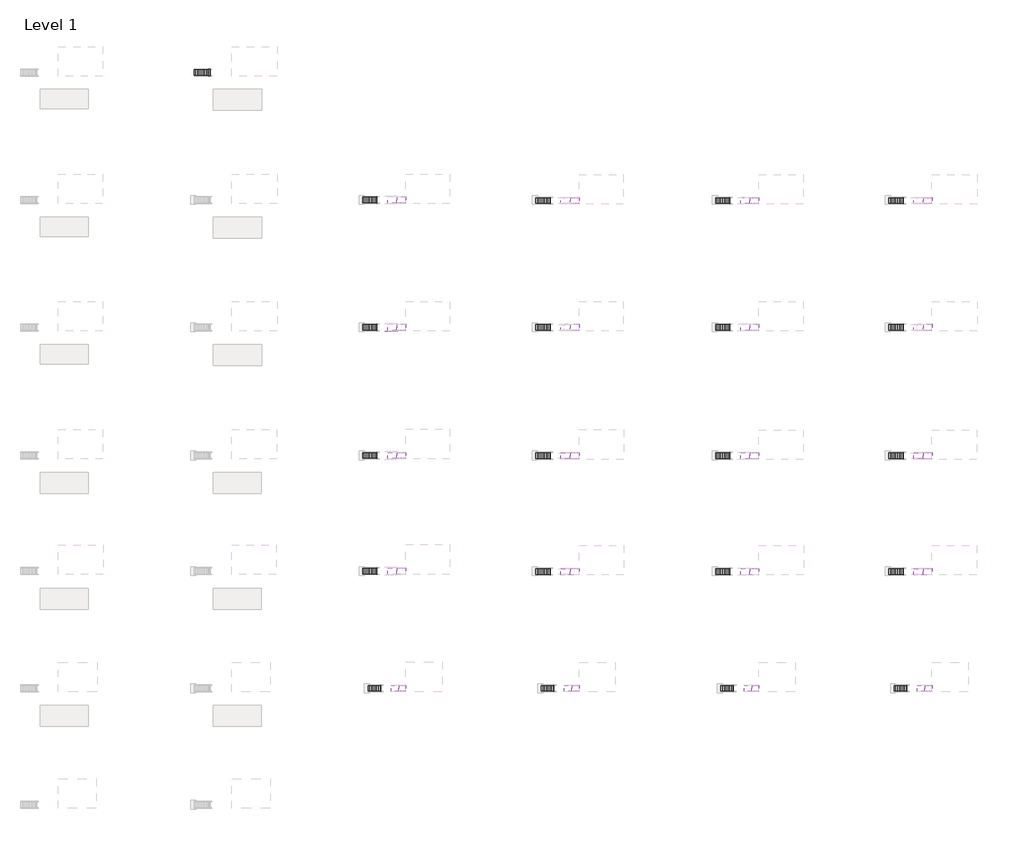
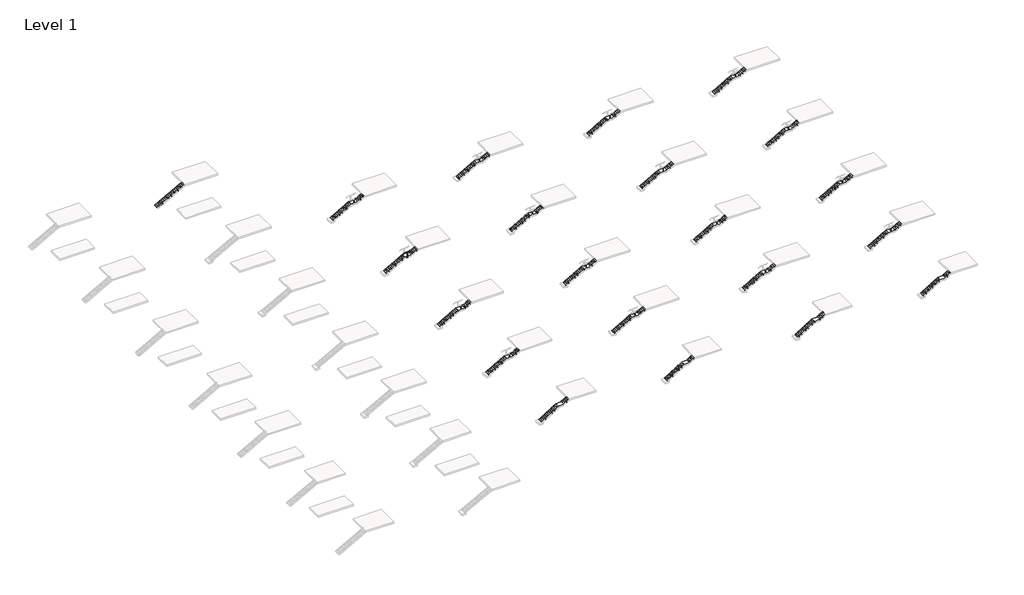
# One storey, part 20 of 26: 41 stair flights, 20 slabs, 1 railing.
"""IFC4 building model written with IfcOpenShell, lengths in millimetres."""

from ifc_helpers import new_model, si_unit, point, frame, frame_2d, origin, place, context, project, spatial, polyline, circle_curve, ellipse_curve, trimmed, segment, composite_curve, outline, extrude, faceted_brep, transform, mapped, element, save
from ifc_brep_helpers import plane_surface, cylinder_surface, advanced_brep
from components import non_monolithic_landing_ba18e954, non_monolithic_landing_6adbc8e0, non_monolithic_landing_85741d80, non_monolithic_landing_9c3b6c2f, non_monolithic_landing_3735fff0, non_monolithic_landing_7542c6ef, non_monolithic_landing_2175300e, non_monolithic_landing_fe87bfb6, non_monolithic_landing_61dc7ece, non_monolithic_landing_2ec73fd3, non_monolithic_landing_1fe08bb0, non_monolithic_landing_55aafcfe, non_monolithic_landing_4edcb1f4, non_monolithic_landing_a06a94af, non_monolithic_landing_d1df9633, non_monolithic_landing_807e3ce3, non_monolithic_landing_8dc55f4e, non_monolithic_landing_04b1c395, non_monolithic_landing_970f0ffe, non_monolithic_landing_216da468, stair_flight_2194d3fa, stair_flight_f2962e83, stair_flight_2e129cbe, stair_flight_daf749ab, stair_flight_31af6763, stair_flight_0488f1b2, stair_flight_74420b91, stair_flight_86070106, stair_flight_121c85e8, stair_flight_4cc94064, stair_flight_ee530d9f, stair_flight_0a09475e, stair_flight_679cbe74, stair_flight_40b9fe5e, stair_flight_dd7b6ecc, stair_flight_db9d9bea, stair_flight_47092819, stair_flight_35d62cd0, stair_flight_6df517c7, stair_flight_b267efb0, stair_flight_7796f7ba, stair_flight_b1352991, stair_flight_6c6cad8c, stair_flight_93157d2e, stair_flight_fbbe2258, stair_flight_fc5f5a85, stair_flight_019ce01d, stair_flight_322c6501, stair_flight_2bd32467, stair_flight_4906deab, stair_flight_edcfc60d, stair_flight_f7af0ae6, stair_flight_d7916bae, stair_flight_35e525fe, stair_flight_9e2481da, stair_flight_60fe939c, stair_flight_b48d4b94, stair_flight_1aeb8a89, stair_flight_938dff1c, stair_flight_72f888fa, stair_flight_1632b0e1

model = new_model("IFC4")

# Units and contexts
model_context = context("Model", 3, world=origin())
ifc_project = project(units=[si_unit("LENGTHUNIT", "METRE", prefix="MILLI")], contexts=[model_context])

# Site, building, storey
site = spatial("IfcSite", under=ifc_project)
building = spatial("IfcBuilding", under=site)
storey = spatial("IfcBuildingStorey", under=building, Name="Level 1", Elevation=0.0)

# Railing
placement = place(None, origin())
element("IfcRailing", 1, ObjectType="VIVA-CUBE-Glass-Fascia Mount-Stair-Landing", at=placement, inside=storey, context=model_context, shape_type="SolidModel", body=[
    advanced_brep(
    [(87644.1145262, 15715.3311941, 3009.6740933), (87644.1145262, 15766.1311941, 3009.6740933), (88031.8598629, 15715.3311941, 3231.2428571), (88031.8598629, 15766.1311941, 3231.2428571), (89098.6598629, 15715.3311941, 3231.2428571), (89098.6598629, 15766.1311941, 3231.2428571), (89368.1395262, 15715.3311941, 3385.2312362), (89368.1395262, 15766.1311941, 3385.2312362)],
    [
        (0, 1, ellipse_curve(frame((87644.1145262, 15740.7311941, 3009.6740933), z_axis=(-1.0, 0.0, 0.0), x_axis=(0.0, 0.0, -0.9999999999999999)), 29.2544781, 25.4)),
        (1, 0, ellipse_curve(frame((87644.1145262, 15740.7311941, 3009.6740933), z_axis=(-1.0, 0.0, 0.0), x_axis=(0.0, 0.0, -0.9999999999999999)), 29.2544781, 25.4)),
        (0, 2),
        (2, 3, ellipse_curve(frame((88031.8598629, 15740.7311941, 3231.2428571), z_axis=(-0.966499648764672, 0.0, -0.25666793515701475), x_axis=(0.25666793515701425, 0.0, -0.9664996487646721)), 26.2804027, 25.4)),
        (3, 1),
        (3, 2, ellipse_curve(frame((88031.8598629, 15740.7311941, 3231.2428571), z_axis=(-0.966499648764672, 0.0, -0.25666793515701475), x_axis=(0.25666793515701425, 0.0, -0.9664996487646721)), 26.2804027, 25.4)),
        (2, 4),
        (4, 5, ellipse_curve(frame((89098.6598629, 15740.7311941, 3231.2428571), z_axis=(-0.9664996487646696, 0.0, -0.2566679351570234), x_axis=(-0.2566679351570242, 0.0, 0.9664996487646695)), 26.2804027, 25.4)),
        (5, 3),
        (5, 4, ellipse_curve(frame((89098.6598629, 15740.7311941, 3231.2428571), z_axis=(-0.9664996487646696, 0.0, -0.2566679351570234), x_axis=(-0.2566679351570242, 0.0, 0.9664996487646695)), 26.2804027, 25.4)),
        (6, 7, ellipse_curve(frame((89368.1395262, 15740.7311941, 3385.2312362), z_axis=(1.0, 0.0, 0.0), x_axis=(0.0, 0.0, -1.0)), 29.2544781, 25.4)),
        (7, 6, ellipse_curve(frame((89368.1395262, 15740.7311941, 3385.2312362), z_axis=(1.0, 0.0, 0.0), x_axis=(0.0, 0.0, -1.0)), 29.2544781, 25.4)),
        (4, 6),
        (7, 5),
    ],
    [
        plane_surface(frame((87644.1145262, 15740.7311941, 3038.9285714), z_axis=(-1.0, 0.0, 0.0), x_axis=(0.0, 1.0, 0.0))),
        cylinder_surface(frame((87656.7164552, 15740.7311941, 3016.8751956), z_axis=(-0.868243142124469, 0.0, -0.49613893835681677), x_axis=(0.0, 1.0, 0.0)), 25.4),
        cylinder_surface(frame((88025.1145262, 15740.7311941, 3231.2428571), z_axis=(-1.0, 0.0, 0.0), x_axis=(0.0, 1.0, 0.0)), 25.4),
        plane_surface(frame((89368.1395262, 15740.7311941, 3414.4857143), z_axis=(1.0, 0.0, 0.0), x_axis=(0.0, 1.0, 0.0))),
        cylinder_surface(frame((89104.5164552, 15740.7311941, 3234.5894813), z_axis=(-0.8682431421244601, 0.0, -0.4961389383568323), x_axis=(0.0, 1.0, 0.0)), 25.4),
    ],
    [
        (0, [[1, 2]]),
        (1, [[-1, 3, 4, 5]]),
        (1, [[-2, -5, 6, -3]]),
        (2, [[-4, 7, 8, 9]]),
        (2, [[-6, -9, 10, -7]]),
        (3, [[11, 12]]),
        (4, [[-8, 13, -12, 14]]),
        (4, [[-10, -14, -11, -13]]),
    ],
),
    extrude(outline(composite_curve([segment(trimmed(circle_curve(frame_2d((0.0, -7.0)), 7.0), [point((0.0, -14.0))], [point((0.0, 0.0))], False, "CARTESIAN"), True, "CONTINUOUS"), segment(trimmed(circle_curve(frame_2d((0.0, -7.0)), 7.0), [point((0.0, 0.0))], [point((0.0, -14.0))], False, "CARTESIAN"), True, "CONTINUOUS")], self_intersect=False)), frame((88506.6192867, 15826.4150199, 2972.3156836), z_axis=(-0.0012555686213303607, 0.0, 0.999999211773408), x_axis=(-0.999999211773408, 0.0, -0.0012555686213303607)), (0.0, 0.0, 1.0), 75.97),
    extrude(outline(composite_curve([segment(trimmed(circle_curve(frame_2d((15834.6629519, 3070.2618193)), 19.05), [point((15821.1333637, 3056.8509005))], [point((15848.1925401, 3056.8509005))], True, "CARTESIAN"), True, "CONTINUOUS"), segment(polyline([(15848.1925401, 3056.8509005), (15849.2189298, 3055.8335135)]), True, "CONTINUOUS"), segment(trimmed(circle_curve(frame_2d((15848.1629519, 3054.7681916)), 1.5), [point((15849.2189298, 3055.8335135))], [point((15849.1483534, 3053.6372698))], False, "CARTESIAN"), True, "CONTINUOUS"), segment(trimmed(circle_curve(frame_2d((15834.6629519, 3070.2618193)), 22.05), [point((15849.1483534, 3053.6372698))], [point((15820.1775504, 3053.6372698))], False, "CARTESIAN"), True, "CONTINUOUS"), segment(trimmed(circle_curve(frame_2d((15821.1629519, 3054.7681916)), 1.5), [point((15820.1775504, 3053.6372698))], [point((15820.106974, 3055.8335135))], False, "CARTESIAN"), True, "CONTINUOUS"), segment(polyline([(15820.106974, 3055.8335135), (15821.1333637, 3056.8509005)]), True, "CONTINUOUS")], self_intersect=False)), frame((88468.4477528, 0.0, 0.0), z_axis=(1.0, 0.0, 0.0), x_axis=(0.0, 1.0, 0.0)), (0.0, 0.0, 1.0), 74.5229187),
    extrude(outline(composite_curve([segment(trimmed(circle_curve(frame_2d((2999.1922796, 88506.5593832)), 12.5), [point((2999.1922796, 88519.0593832))], [point((2999.1922796, 88494.0593832))], False, "CARTESIAN"), True, "CONTINUOUS"), segment(trimmed(circle_curve(frame_2d((2999.1922796, 88506.5593832)), 12.5), [point((2999.1922796, 88494.0593832))], [point((2999.1922796, 88519.0593832))], False, "CARTESIAN"), True, "CONTINUOUS")], self_intersect=False)), frame((0.0, 15766.1311941, 0.0), z_axis=(0.0, 1.0, 0.0), x_axis=(0.0, 0.0, 1.0)), (0.0, 0.0, 1.0), 82.061346),
    extrude(outline(polyline([(88570.0239012, 15795.2442297), (88570.0239012, 15785.2620297), (88443.0239012, 15785.2620297), (88443.0239012, 15795.2442297), (88570.0239012, 15795.2442297)])), frame((0.0, 0.0, 1999.3428571), z_axis=(0.0, 0.0, 1.0), x_axis=(1.0, 0.0, 0.0)), (0.0, 0.0, 1.0), 152.4),
    extrude(outline(composite_curve([segment(polyline([(2151.7428571, 88567.4839012), (2151.7428571, 88445.5639012)]), True, "CONTINUOUS"), segment(trimmed(circle_curve(frame_2d((2149.2028571, 88445.5639012)), 2.54), [point((2151.7428571, 88445.5639012))], [point((2149.2028571, 88443.0239012))], False, "CARTESIAN"), True, "CONTINUOUS"), segment(polyline([(2149.2028571, 88443.0239012), (2001.8828571, 88443.0239012)]), True, "CONTINUOUS"), segment(trimmed(circle_curve(frame_2d((2001.8828571, 88445.5639012)), 2.54), [point((2001.8828571, 88443.0239012))], [point((1999.3428571, 88445.5639012))], False, "CARTESIAN"), True, "CONTINUOUS"), segment(polyline([(1999.3428571, 88445.5639012), (1999.3428571, 88567.4839012)]), True, "CONTINUOUS"), segment(trimmed(circle_curve(frame_2d((2001.8828571, 88567.4839012)), 2.54), [point((1999.3428571, 88567.4839012))], [point((2001.8828571, 88570.0239012))], False, "CARTESIAN"), True, "CONTINUOUS"), segment(polyline([(2001.8828571, 88570.0239012), (2149.2028571, 88570.0239012)]), True, "CONTINUOUS"), segment(trimmed(circle_curve(frame_2d((2149.2028571, 88567.4839012)), 2.54), [point((2149.2028571, 88570.0239012))], [point((2151.7428571, 88567.4839012))], False, "CARTESIAN"), True, "CONTINUOUS")], self_intersect=False), holes=[composite_curve([segment(trimmed(circle_curve(frame_2d((2132.6928571, 88462.0739012)), 5.55625), [point((2132.6928571, 88467.6301512))], [point((2132.6928571, 88456.5176512))], True, "CARTESIAN"), True, "CONTINUOUS"), segment(trimmed(circle_curve(frame_2d((2132.6928571, 88462.0739012)), 5.55625), [point((2132.6928571, 88456.5176512))], [point((2132.6928571, 88467.6301512))], True, "CARTESIAN"), True, "CONTINUOUS")], self_intersect=False), composite_curve([segment(trimmed(circle_curve(frame_2d((2132.6928571, 88550.9739012)), 5.55625), [point((2132.6928571, 88556.5301512))], [point((2132.6928571, 88545.4176512))], True, "CARTESIAN"), True, "CONTINUOUS"), segment(trimmed(circle_curve(frame_2d((2132.6928571, 88550.9739012)), 5.55625), [point((2132.6928571, 88545.4176512))], [point((2132.6928571, 88556.5301512))], True, "CARTESIAN"), True, "CONTINUOUS")], self_intersect=False), composite_curve([segment(trimmed(circle_curve(frame_2d((2018.3928571, 88550.9739012)), 5.55625), [point((2018.3928571, 88556.5301512))], [point((2018.3928571, 88545.4176512))], True, "CARTESIAN"), True, "CONTINUOUS"), segment(trimmed(circle_curve(frame_2d((2018.3928571, 88550.9739012)), 5.55625), [point((2018.3928571, 88545.4176512))], [point((2018.3928571, 88556.5301512))], True, "CARTESIAN"), True, "CONTINUOUS")], self_intersect=False), composite_curve([segment(trimmed(circle_curve(frame_2d((2018.3928571, 88462.0739012)), 5.55625), [point((2018.3928571, 88467.6301512))], [point((2018.3928571, 88456.5176512))], True, "CARTESIAN"), True, "CONTINUOUS"), segment(trimmed(circle_curve(frame_2d((2018.3928571, 88462.0739012)), 5.55625), [point((2018.3928571, 88456.5176512))], [point((2018.3928571, 88467.6301512))], True, "CARTESIAN"), True, "CONTINUOUS")], self_intersect=False)]), frame((0.0, 15775.2798297, 0.0), z_axis=(0.0, 1.0, 0.0), x_axis=(0.0, 0.0, 1.0)), (0.0, 0.0, 1.0), 9.9822),
    extrude(outline(polyline([(88474.7739012, 15785.2620297), (88538.2739012, 15785.2620297), (88538.2739012, 15708.9811941), (88474.7739012, 15708.9811941), (88474.7739012, 15785.2620297)])), frame((0.0, 0.0, 2026.3303571), z_axis=(0.0, 0.0, 1.0), x_axis=(1.0, 0.0, 0.0)), (0.0, 0.0, 1.0), 9.5123),
    extrude(outline(polyline([(88474.7739012, 15785.2620297), (88538.2739012, 15785.2620297), (88538.2739012, 15708.9811941), (88474.7739012, 15708.9811941), (88474.7739012, 15785.2620297)])), frame((0.0, 0.0, 2115.2303571), z_axis=(0.0, 0.0, 1.0), x_axis=(1.0, 0.0, 0.0)), (0.0, 0.0, 1.0), 9.525),
    extrude(outline(composite_curve([segment(trimmed(circle_curve(frame_2d((2999.1922796, 88506.5593832)), 12.5), [point((2999.1922796, 88494.0593832))], [point((2999.1922796, 88519.0593832))], False, "CARTESIAN"), True, "CONTINUOUS"), segment(trimmed(circle_curve(frame_2d((2999.1922796, 88506.5593832)), 12.5), [point((2999.1922796, 88519.0593832))], [point((2999.1922796, 88494.0593832))], False, "CARTESIAN"), True, "CONTINUOUS")], self_intersect=False)), frame((0.0, 15707.7111941, 0.0), z_axis=(0.0, 1.0, 0.0), x_axis=(0.0, 0.0, 1.0)), (0.0, 0.0, 1.0), 7.62),
    faceted_brep([(88519.2239012, 15753.4311941, 3174.433132), (88493.8239012, 15753.4311941, 3174.433132), (88493.8239012, 15744.6999441, 3174.433132), (88519.2239012, 15744.6999441, 3174.433132), (88493.8239012, 15728.0311941, 3174.433132), (88519.2239012, 15728.0311941, 3174.433132), (88519.2239012, 15736.7624441, 3174.433132), (88493.8239012, 15736.7624441, 3174.433132), (88531.9239012, 15766.1311941, 3118.2776425), (88531.9239012, 15715.3311941, 3118.2776425), (88481.1239012, 15766.1311941, 3118.2776425), (88481.1239012, 15715.3311941, 3118.2776425), (88531.9239012, 15766.1311941, 2035.8426571), (88531.9239012, 15715.3311941, 2035.8426571), (88481.1239012, 15715.3311941, 2035.8426571), (88481.1239012, 15766.1311941, 2035.8426571), (88493.8239012, 15736.7624441, 3186.4734584), (88519.2239012, 15736.7624441, 3186.4734584), (88519.2239012, 15744.6999441, 3186.4734584), (88493.8239012, 15744.6999441, 3186.4734584)], [[[0, 1, 2, 3]], [[4, 5, 6, 7]], [[8, 0, 3, 6, 5, 9]], [[1, 0, 8, 10]], [[1, 10, 11, 4, 7, 2]], [[5, 4, 11, 9]], [[12, 13, 14, 15]], [[12, 15, 10, 8]], [[15, 14, 11, 10]], [[14, 13, 9, 11]], [[13, 12, 8, 9]], [[16, 17, 18, 19]], [[17, 16, 7, 6]], [[18, 17, 6, 3]], [[19, 18, 3, 2]], [[16, 19, 2, 7]]]),
    extrude(outline(composite_curve([segment(trimmed(circle_curve(frame_2d((15740.8279225, 3231.2861755)), 25.4345159), [point((15728.2641196, 3209.1713512))], [point((15753.2231562, 3209.0764304))], True, "CARTESIAN"), True, "CONTINUOUS"), segment(trimmed(circle_curve(frame_2d((15754.4678094, 3206.5739456)), 2.7949225), [point((15753.2231562, 3209.0764304))], [point((15755.9451144, 3204.2013603))], False, "CARTESIAN"), True, "CONTINUOUS"), segment(trimmed(circle_curve(frame_2d((15740.6944594, 3232.0488022)), 31.75), [point((15755.9451144, 3204.2013603))], [point((15724.4282222, 3204.7821187))], False, "CARTESIAN"), True, "CONTINUOUS"), segment(trimmed(circle_curve(frame_2d((15726.7165619, 3206.6530378)), 2.9558141), [point((15724.4282222, 3204.7821187))], [point((15728.2641196, 3209.1713512))], False, "CARTESIAN"), True, "CONTINUOUS")], self_intersect=False)), frame((88461.2865012, 0.0, 0.0), z_axis=(1.0, 0.0, 0.0), x_axis=(0.0, 1.0, 0.0)), (0.0, 0.0, 1.0), 90.4748),
    extrude(outline(composite_curve([segment(polyline([(3200.5113742, 88533.5918161), (3200.5113742, 88479.4559863)]), True, "CONTINUOUS"), segment(trimmed(circle_curve(frame_2d((3186.1434593, 88479.4559863)), 14.3679149), [point((3200.5113742, 88479.4559863))], [point((3186.1434593, 88493.8239012))], True, "CARTESIAN"), True, "CONTINUOUS"), segment(trimmed(circle_curve(frame_2d((3186.1434593, 88506.5239012)), 12.7), [point((3186.1434593, 88493.8239012))], [point((3186.1434593, 88519.2239012))], False, "CARTESIAN"), True, "CONTINUOUS"), segment(trimmed(circle_curve(frame_2d((3186.1434593, 88533.5918161)), 14.3679149), [point((3186.1434593, 88519.2239012))], [point((3200.5113742, 88533.5918161))], True, "CARTESIAN"), True, "CONTINUOUS")], self_intersect=False)), frame((0.0, 15738.1911941, 0.0), z_axis=(0.0, 1.0, 0.0), x_axis=(0.0, 0.0, 1.0)), (0.0, 0.0, 1.0), 5.08),
])

# Slabs
non_monolithic_landing_shape = non_monolithic_landing_ba18e954(model_context)
element("IfcSlab", 2, ObjectType="Non-Monolithic Landing", at=placement, inside=storey, context=model_context, shape_type="MappedRepresentation", body=[
    mapped(non_monolithic_landing_shape, transform((0.0, 0.0, 0.0), x_axis=(1.0, 0.0, 0.0), y_axis=(0.0, 1.0, 0.0), z_axis=(0.0, 0.0, 1.0))),
])
non_monolithic_landing_2_shape = non_monolithic_landing_6adbc8e0(model_context)
element("IfcSlab", 3, ObjectType="Non-Monolithic Landing", at=placement, inside=storey, context=model_context, shape_type="MappedRepresentation", body=[
    mapped(non_monolithic_landing_2_shape, transform((0.0, 0.0, 0.0), x_axis=(1.0, 0.0, 0.0), y_axis=(0.0, 1.0, 0.0), z_axis=(0.0, 0.0, 1.0))),
])
non_monolithic_landing_3_shape = non_monolithic_landing_85741d80(model_context)
element("IfcSlab", 4, ObjectType="Non-Monolithic Landing", at=placement, inside=storey, context=model_context, shape_type="MappedRepresentation", body=[
    mapped(non_monolithic_landing_3_shape, transform((0.0, 0.0, 0.0), x_axis=(1.0, 0.0, 0.0), y_axis=(0.0, 1.0, 0.0), z_axis=(0.0, 0.0, 1.0))),
])
non_monolithic_landing_4_shape = non_monolithic_landing_9c3b6c2f(model_context)
element("IfcSlab", 5, ObjectType="Non-Monolithic Landing", at=placement, inside=storey, context=model_context, shape_type="MappedRepresentation", body=[
    mapped(non_monolithic_landing_4_shape, transform((0.0, 0.0, 0.0), x_axis=(1.0, 0.0, 0.0), y_axis=(0.0, 1.0, 0.0), z_axis=(0.0, 0.0, 1.0))),
])
non_monolithic_landing_5_shape = non_monolithic_landing_3735fff0(model_context)
element("IfcSlab", 6, ObjectType="Non-Monolithic Landing", at=placement, inside=storey, context=model_context, shape_type="MappedRepresentation", body=[
    mapped(non_monolithic_landing_5_shape, transform((0.0, 0.0, 0.0), x_axis=(1.0, 0.0, 0.0), y_axis=(0.0, 1.0, 0.0), z_axis=(0.0, 0.0, 1.0))),
])
non_monolithic_landing_6_shape = non_monolithic_landing_7542c6ef(model_context)
element("IfcSlab", 7, ObjectType="Non-Monolithic Landing", at=placement, inside=storey, context=model_context, shape_type="MappedRepresentation", body=[
    mapped(non_monolithic_landing_6_shape, transform((0.0, 0.0, 0.0), x_axis=(1.0, 0.0, 0.0), y_axis=(0.0, 1.0, 0.0), z_axis=(0.0, 0.0, 1.0))),
])
non_monolithic_landing_7_shape = non_monolithic_landing_2175300e(model_context)
element("IfcSlab", 8, ObjectType="Non-Monolithic Landing", at=placement, inside=storey, context=model_context, shape_type="MappedRepresentation", body=[
    mapped(non_monolithic_landing_7_shape, transform((0.0, 0.0, 0.0), x_axis=(1.0, 0.0, 0.0), y_axis=(0.0, 1.0, 0.0), z_axis=(0.0, 0.0, 1.0))),
])
non_monolithic_landing_8_shape = non_monolithic_landing_fe87bfb6(model_context)
element("IfcSlab", 9, ObjectType="Non-Monolithic Landing", at=placement, inside=storey, context=model_context, shape_type="MappedRepresentation", body=[
    mapped(non_monolithic_landing_8_shape, transform((0.0, 0.0, 0.0), x_axis=(1.0, 0.0, 0.0), y_axis=(0.0, 1.0, 0.0), z_axis=(0.0, 0.0, 1.0))),
])
non_monolithic_landing_9_shape = non_monolithic_landing_61dc7ece(model_context)
element("IfcSlab", 10, ObjectType="Non-Monolithic Landing", at=placement, inside=storey, context=model_context, shape_type="MappedRepresentation", body=[
    mapped(non_monolithic_landing_9_shape, transform((0.0, 0.0, 0.0), x_axis=(1.0, 0.0, 0.0), y_axis=(0.0, 1.0, 0.0), z_axis=(0.0, 0.0, 1.0))),
])
non_monolithic_landing_10_shape = non_monolithic_landing_2ec73fd3(model_context)
element("IfcSlab", 11, ObjectType="Non-Monolithic Landing", at=placement, inside=storey, context=model_context, shape_type="MappedRepresentation", body=[
    mapped(non_monolithic_landing_10_shape, transform((0.0, 0.0, 0.0), x_axis=(1.0, 0.0, 0.0), y_axis=(0.0, 1.0, 0.0), z_axis=(0.0, 0.0, 1.0))),
])
non_monolithic_landing_11_shape = non_monolithic_landing_1fe08bb0(model_context)
element("IfcSlab", 12, ObjectType="Non-Monolithic Landing", at=placement, inside=storey, context=model_context, shape_type="MappedRepresentation", body=[
    mapped(non_monolithic_landing_11_shape, transform((0.0, 0.0, 0.0), x_axis=(1.0, 0.0, 0.0), y_axis=(0.0, 1.0, 0.0), z_axis=(0.0, 0.0, 1.0))),
])
non_monolithic_landing_12_shape = non_monolithic_landing_55aafcfe(model_context)
element("IfcSlab", 13, ObjectType="Non-Monolithic Landing", at=placement, inside=storey, context=model_context, shape_type="MappedRepresentation", body=[
    mapped(non_monolithic_landing_12_shape, transform((0.0, 0.0, 0.0), x_axis=(1.0, 0.0, 0.0), y_axis=(0.0, 1.0, 0.0), z_axis=(0.0, 0.0, 1.0))),
])
non_monolithic_landing_13_shape = non_monolithic_landing_4edcb1f4(model_context)
element("IfcSlab", 14, ObjectType="Non-Monolithic Landing", at=placement, inside=storey, context=model_context, shape_type="MappedRepresentation", body=[
    mapped(non_monolithic_landing_13_shape, transform((0.0, 0.0, 0.0), x_axis=(1.0, 0.0, 0.0), y_axis=(0.0, 1.0, 0.0), z_axis=(0.0, 0.0, 1.0))),
])
non_monolithic_landing_14_shape = non_monolithic_landing_a06a94af(model_context)
element("IfcSlab", 15, ObjectType="Non-Monolithic Landing", at=placement, inside=storey, context=model_context, shape_type="MappedRepresentation", body=[
    mapped(non_monolithic_landing_14_shape, transform((0.0, 0.0, 0.0), x_axis=(1.0, 0.0, 0.0), y_axis=(0.0, 1.0, 0.0), z_axis=(0.0, 0.0, 1.0))),
])
non_monolithic_landing_15_shape = non_monolithic_landing_d1df9633(model_context)
element("IfcSlab", 16, ObjectType="Non-Monolithic Landing", at=placement, inside=storey, context=model_context, shape_type="MappedRepresentation", body=[
    mapped(non_monolithic_landing_15_shape, transform((0.0, 0.0, 0.0), x_axis=(1.0, 0.0, 0.0), y_axis=(0.0, 1.0, 0.0), z_axis=(0.0, 0.0, 1.0))),
])
non_monolithic_landing_16_shape = non_monolithic_landing_807e3ce3(model_context)
element("IfcSlab", 17, ObjectType="Non-Monolithic Landing", at=placement, inside=storey, context=model_context, shape_type="MappedRepresentation", body=[
    mapped(non_monolithic_landing_16_shape, transform((0.0, 0.0, 0.0), x_axis=(1.0, 0.0, 0.0), y_axis=(0.0, 1.0, 0.0), z_axis=(0.0, 0.0, 1.0))),
])
non_monolithic_landing_17_shape = non_monolithic_landing_8dc55f4e(model_context)
element("IfcSlab", 18, ObjectType="Non-Monolithic Landing", at=placement, inside=storey, context=model_context, shape_type="MappedRepresentation", body=[
    mapped(non_monolithic_landing_17_shape, transform((0.0, 0.0, 0.0), x_axis=(1.0, 0.0, 0.0), y_axis=(0.0, 1.0, 0.0), z_axis=(0.0, 0.0, 1.0))),
])
non_monolithic_landing_18_shape = non_monolithic_landing_04b1c395(model_context)
element("IfcSlab", 19, ObjectType="Non-Monolithic Landing", at=placement, inside=storey, context=model_context, shape_type="MappedRepresentation", body=[
    mapped(non_monolithic_landing_18_shape, transform((0.0, 0.0, 0.0), x_axis=(1.0, 0.0, 0.0), y_axis=(0.0, 1.0, 0.0), z_axis=(0.0, 0.0, 1.0))),
])
non_monolithic_landing_19_shape = non_monolithic_landing_970f0ffe(model_context)
element("IfcSlab", 20, ObjectType="Non-Monolithic Landing", at=placement, inside=storey, context=model_context, shape_type="MappedRepresentation", body=[
    mapped(non_monolithic_landing_19_shape, transform((0.0, 0.0, 0.0), x_axis=(1.0, 0.0, 0.0), y_axis=(0.0, 1.0, 0.0), z_axis=(0.0, 0.0, 1.0))),
])
non_monolithic_landing_20_shape = non_monolithic_landing_216da468(model_context)
element("IfcSlab", 21, ObjectType="Non-Monolithic Landing", at=placement, inside=storey, context=model_context, shape_type="MappedRepresentation", body=[
    mapped(non_monolithic_landing_20_shape, transform((0.0, 0.0, 0.0), x_axis=(1.0, 0.0, 0.0), y_axis=(0.0, 1.0, 0.0), z_axis=(0.0, 0.0, 1.0))),
])

# Stair flights
stair_flight_shape = stair_flight_2194d3fa(model_context)
element("IfcStairFlight", 22, ObjectType="2\" Tread 1/4\" Riser", at=placement, inside=storey, context=model_context, shape_type="MappedRepresentation", body=[
    mapped(stair_flight_shape, transform((0.0, 0.0, 0.0), x_axis=(1.0, 0.0, 0.0), y_axis=(0.0, 1.0, 0.0), z_axis=(0.0, 0.0, 1.0))),
])
stair_flight_2_shape = stair_flight_f2962e83(model_context)
element("IfcStairFlight", 23, ObjectType="2\" Tread 1/4\" Riser", at=placement, inside=storey, context=model_context, shape_type="MappedRepresentation", body=[
    mapped(stair_flight_2_shape, transform((0.0, 0.0, 0.0), x_axis=(1.0, 0.0, 0.0), y_axis=(0.0, 1.0, 0.0), z_axis=(0.0, 0.0, 1.0))),
])
stair_flight_3_shape = stair_flight_2e129cbe(model_context)
element("IfcStairFlight", 24, ObjectType="2\" Tread 1/4\" Riser", at=placement, inside=storey, context=model_context, shape_type="MappedRepresentation", body=[
    mapped(stair_flight_3_shape, transform((0.0, 0.0, 0.0), x_axis=(1.0, 0.0, 0.0), y_axis=(0.0, 1.0, 0.0), z_axis=(0.0, 0.0, 1.0))),
])
stair_flight_4_shape = stair_flight_daf749ab(model_context)
element("IfcStairFlight", 25, ObjectType="2\" Tread 1/4\" Riser", at=placement, inside=storey, context=model_context, shape_type="MappedRepresentation", body=[
    mapped(stair_flight_4_shape, transform((0.0, 0.0, 0.0), x_axis=(1.0, 0.0, 0.0), y_axis=(0.0, 1.0, 0.0), z_axis=(0.0, 0.0, 1.0))),
])
stair_flight_5_shape = stair_flight_31af6763(model_context)
element("IfcStairFlight", 26, ObjectType="2\" Tread 1/4\" Riser", at=placement, inside=storey, context=model_context, shape_type="MappedRepresentation", body=[
    mapped(stair_flight_5_shape, transform((0.0, 0.0, 0.0), x_axis=(1.0, 0.0, 0.0), y_axis=(0.0, 1.0, 0.0), z_axis=(0.0, 0.0, 1.0))),
])
stair_flight_6_shape = stair_flight_0488f1b2(model_context)
element("IfcStairFlight", 27, ObjectType="2\" Tread 1/4\" Riser", at=placement, inside=storey, context=model_context, shape_type="MappedRepresentation", body=[
    mapped(stair_flight_6_shape, transform((0.0, 0.0, 0.0), x_axis=(1.0, 0.0, 0.0), y_axis=(0.0, 1.0, 0.0), z_axis=(0.0, 0.0, 1.0))),
])
stair_flight_7_shape = stair_flight_74420b91(model_context)
element("IfcStairFlight", 28, ObjectType="2\" Tread 1/4\" Riser", at=placement, inside=storey, context=model_context, shape_type="MappedRepresentation", body=[
    mapped(stair_flight_7_shape, transform((0.0, 0.0, 0.0), x_axis=(1.0, 0.0, 0.0), y_axis=(0.0, 1.0, 0.0), z_axis=(0.0, 0.0, 1.0))),
])
stair_flight_8_shape = stair_flight_86070106(model_context)
element("IfcStairFlight", 29, ObjectType="2\" Tread 1/4\" Riser", at=placement, inside=storey, context=model_context, shape_type="MappedRepresentation", body=[
    mapped(stair_flight_8_shape, transform((0.0, 0.0, 0.0), x_axis=(1.0, 0.0, 0.0), y_axis=(0.0, 1.0, 0.0), z_axis=(0.0, 0.0, 1.0))),
])
stair_flight_9_shape = stair_flight_121c85e8(model_context)
element("IfcStairFlight", 30, ObjectType="2\" Tread 1/4\" Riser", at=placement, inside=storey, context=model_context, shape_type="MappedRepresentation", body=[
    mapped(stair_flight_9_shape, transform((0.0, 0.0, 0.0), x_axis=(1.0, 0.0, 0.0), y_axis=(0.0, 1.0, 0.0), z_axis=(0.0, 0.0, 1.0))),
])
stair_flight_10_shape = stair_flight_4cc94064(model_context)
element("IfcStairFlight", 31, ObjectType="2\" Tread 1/4\" Riser", at=placement, inside=storey, context=model_context, shape_type="MappedRepresentation", body=[
    mapped(stair_flight_10_shape, transform((0.0, 0.0, 0.0), x_axis=(1.0, 0.0, 0.0), y_axis=(0.0, 1.0, 0.0), z_axis=(0.0, 0.0, 1.0))),
])
stair_flight_11_shape = stair_flight_ee530d9f(model_context)
element("IfcStairFlight", 32, ObjectType="2\" Tread 1/4\" Riser", at=placement, inside=storey, context=model_context, shape_type="MappedRepresentation", body=[
    mapped(stair_flight_11_shape, transform((0.0, 0.0, 0.0), x_axis=(1.0, 0.0, 0.0), y_axis=(0.0, 1.0, 0.0), z_axis=(0.0, 0.0, 1.0))),
])
stair_flight_12_shape = stair_flight_0a09475e(model_context)
element("IfcStairFlight", 33, ObjectType="2\" Tread 1/4\" Riser", at=placement, inside=storey, context=model_context, shape_type="MappedRepresentation", body=[
    mapped(stair_flight_12_shape, transform((0.0, 0.0, 0.0), x_axis=(1.0, 0.0, 0.0), y_axis=(0.0, 1.0, 0.0), z_axis=(0.0, 0.0, 1.0))),
])
stair_flight_13_shape = stair_flight_679cbe74(model_context)
element("IfcStairFlight", 34, ObjectType="2\" Tread 1/4\" Riser", at=placement, inside=storey, context=model_context, shape_type="MappedRepresentation", body=[
    mapped(stair_flight_13_shape, transform((0.0, 0.0, 0.0), x_axis=(1.0, 0.0, 0.0), y_axis=(0.0, 1.0, 0.0), z_axis=(0.0, 0.0, 1.0))),
])
stair_flight_14_shape = stair_flight_40b9fe5e(model_context)
element("IfcStairFlight", 35, ObjectType="2\" Tread 1/4\" Riser", at=placement, inside=storey, context=model_context, shape_type="MappedRepresentation", body=[
    mapped(stair_flight_14_shape, transform((0.0, 0.0, 0.0), x_axis=(1.0, 0.0, 0.0), y_axis=(0.0, 1.0, 0.0), z_axis=(0.0, 0.0, 1.0))),
])
stair_flight_15_shape = stair_flight_dd7b6ecc(model_context)
element("IfcStairFlight", 36, ObjectType="2\" Tread 1/4\" Riser", at=placement, inside=storey, context=model_context, shape_type="MappedRepresentation", body=[
    mapped(stair_flight_15_shape, transform((0.0, 0.0, 0.0), x_axis=(1.0, 0.0, 0.0), y_axis=(0.0, 1.0, 0.0), z_axis=(0.0, 0.0, 1.0))),
])
stair_flight_16_shape = stair_flight_db9d9bea(model_context)
element("IfcStairFlight", 37, ObjectType="2\" Tread 1/4\" Riser", at=placement, inside=storey, context=model_context, shape_type="MappedRepresentation", body=[
    mapped(stair_flight_16_shape, transform((0.0, 0.0, 0.0), x_axis=(1.0, 0.0, 0.0), y_axis=(0.0, 1.0, 0.0), z_axis=(0.0, 0.0, 1.0))),
])
stair_flight_17_shape = stair_flight_47092819(model_context)
element("IfcStairFlight", 38, ObjectType="2\" Tread 1/4\" Riser", at=placement, inside=storey, context=model_context, shape_type="MappedRepresentation", body=[
    mapped(stair_flight_17_shape, transform((0.0, 0.0, 0.0), x_axis=(1.0, 0.0, 0.0), y_axis=(0.0, 1.0, 0.0), z_axis=(0.0, 0.0, 1.0))),
])
stair_flight_18_shape = stair_flight_35d62cd0(model_context)
element("IfcStairFlight", 39, ObjectType="2\" Tread 1/4\" Riser", at=placement, inside=storey, context=model_context, shape_type="MappedRepresentation", body=[
    mapped(stair_flight_18_shape, transform((0.0, 0.0, 0.0), x_axis=(1.0, 0.0, 0.0), y_axis=(0.0, 1.0, 0.0), z_axis=(0.0, 0.0, 1.0))),
])
stair_flight_19_shape = stair_flight_6df517c7(model_context)
element("IfcStairFlight", 40, ObjectType="2\" Tread 1/4\" Riser", at=placement, inside=storey, context=model_context, shape_type="MappedRepresentation", body=[
    mapped(stair_flight_19_shape, transform((0.0, 0.0, 0.0), x_axis=(1.0, 0.0, 0.0), y_axis=(0.0, 1.0, 0.0), z_axis=(0.0, 0.0, 1.0))),
])
stair_flight_20_shape = stair_flight_b267efb0(model_context)
element("IfcStairFlight", 41, ObjectType="2\" Tread 1/4\" Riser", at=placement, inside=storey, context=model_context, shape_type="MappedRepresentation", body=[
    mapped(stair_flight_20_shape, transform((0.0, 0.0, 0.0), x_axis=(1.0, 0.0, 0.0), y_axis=(0.0, 1.0, 0.0), z_axis=(0.0, 0.0, 1.0))),
])
stair_flight_21_shape = stair_flight_7796f7ba(model_context)
element("IfcStairFlight", 42, ObjectType="2\" Tread 1/4\" Riser", at=placement, inside=storey, context=model_context, shape_type="MappedRepresentation", body=[
    mapped(stair_flight_21_shape, transform((0.0, 0.0, 0.0), x_axis=(1.0, 0.0, 0.0), y_axis=(0.0, 1.0, 0.0), z_axis=(0.0, 0.0, 1.0))),
])
stair_flight_22_shape = stair_flight_b1352991(model_context)
element("IfcStairFlight", 43, ObjectType="2\" Tread 1/4\" Riser", at=placement, inside=storey, context=model_context, shape_type="MappedRepresentation", body=[
    mapped(stair_flight_22_shape, transform((0.0, 0.0, 0.0), x_axis=(1.0, 0.0, 0.0), y_axis=(0.0, 1.0, 0.0), z_axis=(0.0, 0.0, 1.0))),
])
stair_flight_23_shape = stair_flight_6c6cad8c(model_context)
element("IfcStairFlight", 44, ObjectType="2\" Tread 1/4\" Riser", at=placement, inside=storey, context=model_context, shape_type="MappedRepresentation", body=[
    mapped(stair_flight_23_shape, transform((0.0, 0.0, 0.0), x_axis=(1.0, 0.0, 0.0), y_axis=(0.0, 1.0, 0.0), z_axis=(0.0, 0.0, 1.0))),
])
stair_flight_24_shape = stair_flight_93157d2e(model_context)
element("IfcStairFlight", 45, ObjectType="2\" Tread 1/4\" Riser", at=placement, inside=storey, context=model_context, shape_type="MappedRepresentation", body=[
    mapped(stair_flight_24_shape, transform((0.0, 0.0, 0.0), x_axis=(1.0, 0.0, 0.0), y_axis=(0.0, 1.0, 0.0), z_axis=(0.0, 0.0, 1.0))),
])
stair_flight_25_shape = stair_flight_fbbe2258(model_context)
element("IfcStairFlight", 46, ObjectType="2\" Tread 1/4\" Riser", at=placement, inside=storey, context=model_context, shape_type="MappedRepresentation", body=[
    mapped(stair_flight_25_shape, transform((0.0, 0.0, 0.0), x_axis=(1.0, 0.0, 0.0), y_axis=(0.0, 1.0, 0.0), z_axis=(0.0, 0.0, 1.0))),
])
stair_flight_26_shape = stair_flight_fc5f5a85(model_context)
element("IfcStairFlight", 47, ObjectType="2\" Tread 1/4\" Riser", at=placement, inside=storey, context=model_context, shape_type="MappedRepresentation", body=[
    mapped(stair_flight_26_shape, transform((0.0, 0.0, 0.0), x_axis=(1.0, 0.0, 0.0), y_axis=(0.0, 1.0, 0.0), z_axis=(0.0, 0.0, 1.0))),
])
stair_flight_27_shape = stair_flight_019ce01d(model_context)
element("IfcStairFlight", 48, ObjectType="2\" Tread 1/4\" Riser", at=placement, inside=storey, context=model_context, shape_type="MappedRepresentation", body=[
    mapped(stair_flight_27_shape, transform((0.0, 0.0, 0.0), x_axis=(1.0, 0.0, 0.0), y_axis=(0.0, 1.0, 0.0), z_axis=(0.0, 0.0, 1.0))),
])
stair_flight_28_shape = stair_flight_322c6501(model_context)
element("IfcStairFlight", 49, ObjectType="2\" Tread 1/4\" Riser", at=placement, inside=storey, context=model_context, shape_type="MappedRepresentation", body=[
    mapped(stair_flight_28_shape, transform((0.0, 0.0, 0.0), x_axis=(1.0, 0.0, 0.0), y_axis=(0.0, 1.0, 0.0), z_axis=(0.0, 0.0, 1.0))),
])
stair_flight_29_shape = stair_flight_2bd32467(model_context)
element("IfcStairFlight", 50, ObjectType="2\" Tread 1/4\" Riser", at=placement, inside=storey, context=model_context, shape_type="MappedRepresentation", body=[
    mapped(stair_flight_29_shape, transform((0.0, 0.0, 0.0), x_axis=(1.0, 0.0, 0.0), y_axis=(0.0, 1.0, 0.0), z_axis=(0.0, 0.0, 1.0))),
])
stair_flight_30_shape = stair_flight_4906deab(model_context)
element("IfcStairFlight", 51, ObjectType="2\" Tread 1/4\" Riser", at=placement, inside=storey, context=model_context, shape_type="MappedRepresentation", body=[
    mapped(stair_flight_30_shape, transform((0.0, 0.0, 0.0), x_axis=(1.0, 0.0, 0.0), y_axis=(0.0, 1.0, 0.0), z_axis=(0.0, 0.0, 1.0))),
])
stair_flight_31_shape = stair_flight_edcfc60d(model_context)
element("IfcStairFlight", 52, ObjectType="2\" Tread 1/4\" Riser", at=placement, inside=storey, context=model_context, shape_type="MappedRepresentation", body=[
    mapped(stair_flight_31_shape, transform((0.0, 0.0, 0.0), x_axis=(1.0, 0.0, 0.0), y_axis=(0.0, 1.0, 0.0), z_axis=(0.0, 0.0, 1.0))),
])
stair_flight_32_shape = stair_flight_f7af0ae6(model_context)
element("IfcStairFlight", 53, ObjectType="2\" Tread 1/4\" Riser", at=placement, inside=storey, context=model_context, shape_type="MappedRepresentation", body=[
    mapped(stair_flight_32_shape, transform((0.0, 0.0, 0.0), x_axis=(1.0, 0.0, 0.0), y_axis=(0.0, 1.0, 0.0), z_axis=(0.0, 0.0, 1.0))),
])
stair_flight_33_shape = stair_flight_d7916bae(model_context)
element("IfcStairFlight", 54, ObjectType="2\" Tread 1/4\" Riser", at=placement, inside=storey, context=model_context, shape_type="MappedRepresentation", body=[
    mapped(stair_flight_33_shape, transform((0.0, 0.0, 0.0), x_axis=(1.0, 0.0, 0.0), y_axis=(0.0, 1.0, 0.0), z_axis=(0.0, 0.0, 1.0))),
])
stair_flight_34_shape = stair_flight_35e525fe(model_context)
element("IfcStairFlight", 55, ObjectType="2\" Tread 1/4\" Riser", at=placement, inside=storey, context=model_context, shape_type="MappedRepresentation", body=[
    mapped(stair_flight_34_shape, transform((0.0, 0.0, 0.0), x_axis=(1.0, 0.0, 0.0), y_axis=(0.0, 1.0, 0.0), z_axis=(0.0, 0.0, 1.0))),
])
stair_flight_35_shape = stair_flight_9e2481da(model_context)
element("IfcStairFlight", 56, ObjectType="2\" Tread 1/4\" Riser", at=placement, inside=storey, context=model_context, shape_type="MappedRepresentation", body=[
    mapped(stair_flight_35_shape, transform((0.0, 0.0, 0.0), x_axis=(1.0, 0.0, 0.0), y_axis=(0.0, 1.0, 0.0), z_axis=(0.0, 0.0, 1.0))),
])
stair_flight_36_shape = stair_flight_60fe939c(model_context)
element("IfcStairFlight", 57, ObjectType="2\" Tread 1/4\" Riser", at=placement, inside=storey, context=model_context, shape_type="MappedRepresentation", body=[
    mapped(stair_flight_36_shape, transform((0.0, 0.0, 0.0), x_axis=(1.0, 0.0, 0.0), y_axis=(0.0, 1.0, 0.0), z_axis=(0.0, 0.0, 1.0))),
])
stair_flight_37_shape = stair_flight_b48d4b94(model_context)
element("IfcStairFlight", 58, ObjectType="2\" Tread 1/4\" Riser", at=placement, inside=storey, context=model_context, shape_type="MappedRepresentation", body=[
    mapped(stair_flight_37_shape, transform((0.0, 0.0, 0.0), x_axis=(1.0, 0.0, 0.0), y_axis=(0.0, 1.0, 0.0), z_axis=(0.0, 0.0, 1.0))),
])
stair_flight_38_shape = stair_flight_1aeb8a89(model_context)
element("IfcStairFlight", 59, ObjectType="2\" Tread 1/4\" Riser", at=placement, inside=storey, context=model_context, shape_type="MappedRepresentation", body=[
    mapped(stair_flight_38_shape, transform((0.0, 0.0, 0.0), x_axis=(1.0, 0.0, 0.0), y_axis=(0.0, 1.0, 0.0), z_axis=(0.0, 0.0, 1.0))),
])
stair_flight_39_shape = stair_flight_938dff1c(model_context)
element("IfcStairFlight", 60, ObjectType="2\" Tread 1/4\" Riser", at=placement, inside=storey, context=model_context, shape_type="MappedRepresentation", body=[
    mapped(stair_flight_39_shape, transform((0.0, 0.0, 0.0), x_axis=(1.0, 0.0, 0.0), y_axis=(0.0, 1.0, 0.0), z_axis=(0.0, 0.0, 1.0))),
])
stair_flight_40_shape = stair_flight_72f888fa(model_context)
element("IfcStairFlight", 61, ObjectType="2\" Tread 1/4\" Riser", at=placement, inside=storey, context=model_context, shape_type="MappedRepresentation", body=[
    mapped(stair_flight_40_shape, transform((0.0, 0.0, 0.0), x_axis=(1.0, 0.0, 0.0), y_axis=(0.0, 1.0, 0.0), z_axis=(0.0, 0.0, 1.0))),
])
stair_flight_41_shape = stair_flight_1632b0e1(model_context)
element("IfcStairFlight", 62, ObjectType="2\" Tread 1/4\" Riser", at=placement, inside=storey, context=model_context, shape_type="MappedRepresentation", body=[
    mapped(stair_flight_41_shape, transform((0.0, 0.0, 0.0), x_axis=(1.0, 0.0, 0.0), y_axis=(0.0, 1.0, 0.0), z_axis=(0.0, 0.0, 1.0))),
])

save(model, "model.ifc")
